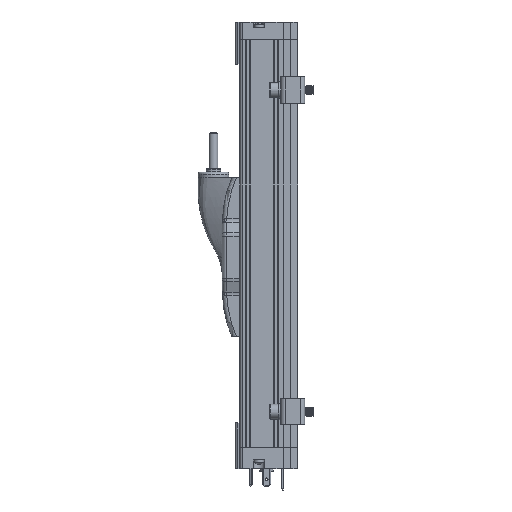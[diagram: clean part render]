
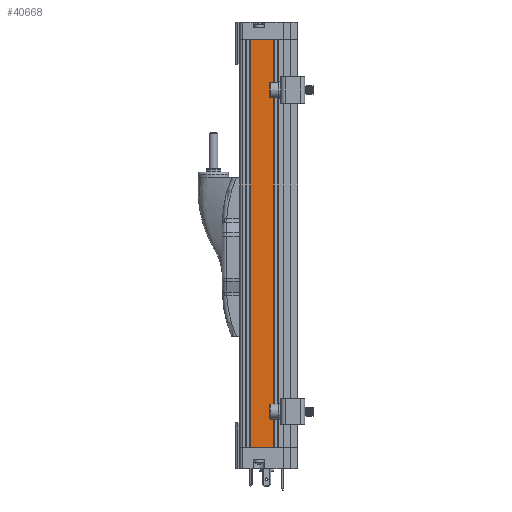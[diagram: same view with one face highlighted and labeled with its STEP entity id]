
A CAD part, left-side view. The second image highlights one B-rep face of the part: STEP entity #40668.
In plain terms, the highlighted planar face has unit normal (-1, 0, 0).
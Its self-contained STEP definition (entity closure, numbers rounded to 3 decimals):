
#550 = VECTOR ( 'NONE', #6134, 1000. ) ;
#676 = VERTEX_POINT ( 'NONE', #39068 ) ;
#978 = VECTOR ( 'NONE', #12271, 1000. ) ;
#1986 = LINE ( 'NONE', #9142, #978 ) ;
#3160 = VECTOR ( 'NONE', #21728, 1000. ) ;
#4133 = ORIENTED_EDGE ( 'NONE', *, *, #18100, .T. ) ;
#4425 = ORIENTED_EDGE ( 'NONE', *, *, #16274, .F. ) ;
#5711 = EDGE_CURVE ( 'NONE', #37090, #16435, #11569, .T. ) ;
#5854 = ORIENTED_EDGE ( 'NONE', *, *, #5711, .F. ) ;
#6134 = DIRECTION ( 'NONE',  ( 0., -1., 0. ) ) ;
#6178 = LINE ( 'NONE', #23411, #21937 ) ;
#8614 = CARTESIAN_POINT ( 'NONE',  ( 0., -22.785, 231. ) ) ;
#9093 = AXIS2_PLACEMENT_3D ( 'NONE', #8614, #30668, #11756 ) ;
#9142 = CARTESIAN_POINT ( 'NONE',  ( 0., 13.5, 231. ) ) ;
#11569 = LINE ( 'NONE', #34341, #3160 ) ;
#11756 = DIRECTION ( 'NONE',  ( 0., 1., 0. ) ) ;
#12271 = DIRECTION ( 'NONE',  ( 0., 0., -1. ) ) ;
#15779 = EDGE_CURVE ( 'NONE', #26299, #676, #24743, .T. ) ;
#16274 = EDGE_CURVE ( 'NONE', #16435, #676, #1986, .T. ) ;
#16435 = VERTEX_POINT ( 'NONE', #35180 ) ;
#18100 = EDGE_CURVE ( 'NONE', #37090, #26299, #6178, .T. ) ;
#19378 = EDGE_LOOP ( 'NONE', ( #19910, #4425, #5854, #4133 ) ) ;
#19910 = ORIENTED_EDGE ( 'NONE', *, *, #15779, .T. ) ;
#20346 = DIRECTION ( 'NONE',  ( 0., 0., -1. ) ) ;
#21728 = DIRECTION ( 'NONE',  ( 0., -1., 0. ) ) ;
#21937 = VECTOR ( 'NONE', #20346, 1000. ) ;
#23411 = CARTESIAN_POINT ( 'NONE',  ( 0., 26.7, 231. ) ) ;
#24743 = LINE ( 'NONE', #37874, #550 ) ;
#26299 = VERTEX_POINT ( 'NONE', #33907 ) ;
#27332 = PLANE ( 'NONE',  #9093 ) ;
#27648 = CARTESIAN_POINT ( 'NONE',  ( 0., 26.7, 231. ) ) ;
#30668 = DIRECTION ( 'NONE',  ( 1., 0., 0. ) ) ;
#33907 = CARTESIAN_POINT ( 'NONE',  ( 0., 26.7, 0. ) ) ;
#34341 = CARTESIAN_POINT ( 'NONE',  ( 0., -22.785, 231. ) ) ;
#35180 = CARTESIAN_POINT ( 'NONE',  ( 0., 13.5, 231. ) ) ;
#36756 = FACE_OUTER_BOUND ( 'NONE', #19378, .T. ) ;
#37090 = VERTEX_POINT ( 'NONE', #27648 ) ;
#37874 = CARTESIAN_POINT ( 'NONE',  ( 0., -22.785, 0. ) ) ;
#39068 = CARTESIAN_POINT ( 'NONE',  ( 0., 13.5, 0. ) ) ;
#40668 = ADVANCED_FACE ( 'NONE', ( #36756 ), #27332, .F. ) ;
